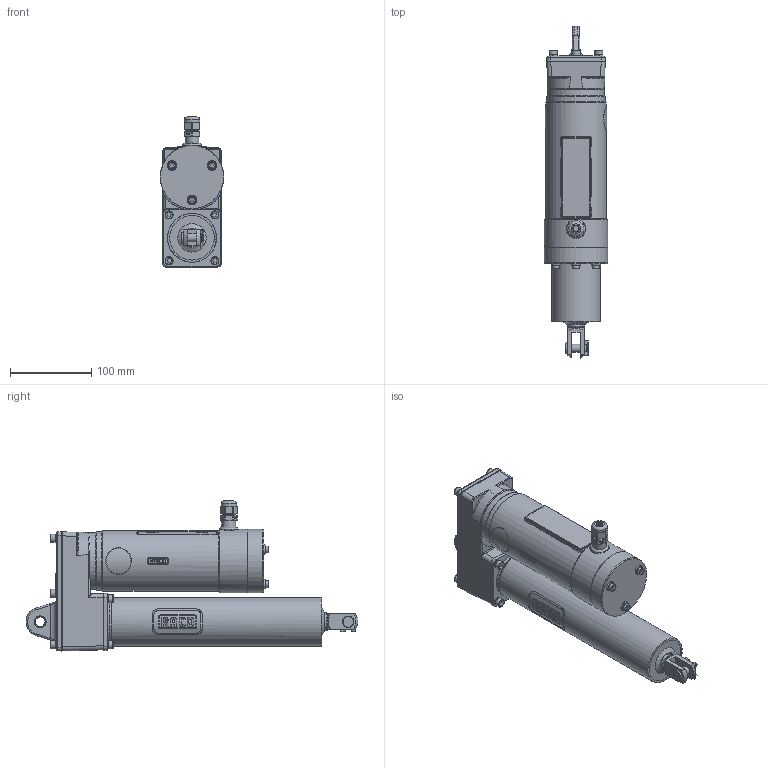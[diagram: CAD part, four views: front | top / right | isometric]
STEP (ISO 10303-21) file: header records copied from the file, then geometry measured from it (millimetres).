
FILE_DESCRIPTION( ( '153-599-4' ), '1' );
FILE_NAME( 'C:/daten/bearbeitung katalogbilder/RBs rendern/austausch pomplun/mit identnr/T6C2-0200-160-261-6.stp', 'Unknown', ( 'Christoph Hahmann' ), ( 'RACO-ELEKTRO-MASCHINEN GmbH' ), 'PSStep 17.0.49', 'Solid Edge ST 7', ' ' );
FILE_SCHEMA( ( 'AUTOMOTIVE_DESIGN { 1 0 10303 214 1 1 1 1 }' ) );
Length unit declared in the file: millimetre
Products named in the file (8): Assem1; 12.01-02-04 6; 12.02-02-04 6 144-119-1; 02.14-02-0200 6; 01.15-02-0200 6; Motor komplett; Abschlußdeckel kompl 108-623-5; 01.01-02-150-127-5
Assembly tree (7 placements, depth 2):
  Assem1
    12.01-02-04 6
    12.02-02-04 6 144-119-1
    02.14-02-0200 6
    01.15-02-0200 6
    Motor komplett
    Abschlußdeckel kompl 108-623-5
    01.01-02-150-127-5
Bounding box: 78.5 x 409.47 x 185.05 mm (x, y, z)
Surface area: 317447.6 mm2 (no closed solid volume)
Topology: 0 solids, 1867 shells, 1868 faces, 8596 edges, 8321 vertices
Faces by surface type: plane 668, cylinder 600, torus 230, bspline 197, cone 90, sphere 69, extrusion 14
Full cylindrical faces by diameter (mm): 4.134 x4, 4.773 x9, 4.917 x19, 5 x3, 5.5 x7, 6 x18, 6.5 x3, 7 x10, 8 x1, 8.5 x4, 8.7 x1, 9 x3, 10 x13, 11 x3, 12 x1, 12.4 x1, 13.4 x1, 13.5 x1, 13.86 x2, 14 x2, 14.394 x2, 15 x2, 15.2 x2, 16.509 x1, 17 x1, 17.281 x1, 18 x1, 18.256 x1, 19 x2, 22 x2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
Entity records: 135222 total; most frequent: CARTESIAN_POINT 56622, DIRECTION 13970, VERTEX_POINT 8209, ORIENTED_EDGE 8198, EDGE_CURVE 8198, AXIS2_PLACEMENT_3D 5394, CIRCLE 3410, VECTOR 3182
